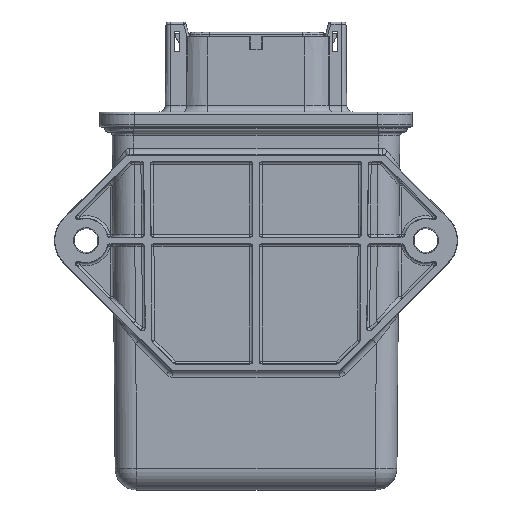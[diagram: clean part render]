
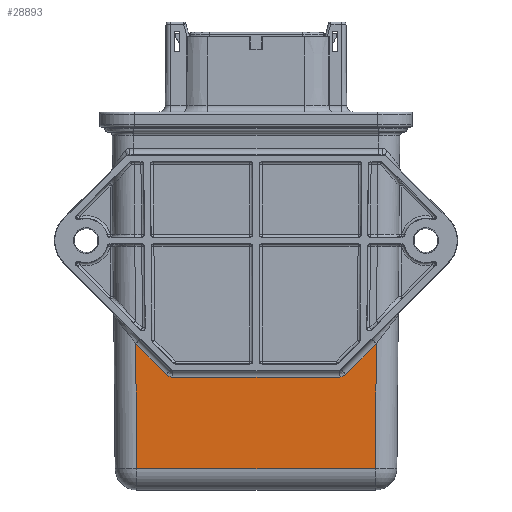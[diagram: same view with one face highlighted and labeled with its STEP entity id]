
A CAD part, front view. The second image highlights one B-rep face of the part: STEP entity #28893.
In plain terms, the highlighted planar face has unit normal (0, -1, -0.009).
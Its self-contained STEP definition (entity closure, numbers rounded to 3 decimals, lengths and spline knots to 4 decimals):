
#2664=ELLIPSE('',#30387,0.084,0.084);
#2670=ELLIPSE('',#30401,0.084,0.084);
#4856=FACE_OUTER_BOUND('',#6517,.T.);
#6517=EDGE_LOOP('',(#26458,#26459,#26460,#26461,#26462,#26463,#26464,#26465));
#9001=LINE('',#48041,#11770);
#9011=LINE('',#48267,#11780);
#9013=LINE('',#48274,#11782);
#9073=LINE('',#49410,#11842);
#9074=LINE('',#49415,#11843);
#9078=LINE('',#49455,#11847);
#11770=VECTOR('',#36328,0.3937);
#11780=VECTOR('',#36374,0.3937);
#11782=VECTOR('',#36382,0.3937);
#11842=VECTOR('',#36516,0.3937);
#11843=VECTOR('',#36525,0.3937);
#11847=VECTOR('',#36537,0.3937);
#14256=VERTEX_POINT('',#47922);
#14277=VERTEX_POINT('',#48038);
#14278=VERTEX_POINT('',#48040);
#14279=VERTEX_POINT('',#48064);
#14296=VERTEX_POINT('',#48260);
#14297=VERTEX_POINT('',#48262);
#14298=VERTEX_POINT('',#48266);
#14369=VERTEX_POINT('',#49409);
#17953=EDGE_CURVE('',#14277,#14278,#9001,.T.);
#17956=EDGE_CURVE('',#14278,#14279,#2664,.T.);
#17978=EDGE_CURVE('',#14296,#14297,#2670,.T.);
#17980=EDGE_CURVE('',#14297,#14298,#9011,.T.);
#17984=EDGE_CURVE('',#14298,#14256,#9013,.T.);
#18077=EDGE_CURVE('',#14256,#14369,#9073,.T.);
#18080=EDGE_CURVE('',#14369,#14277,#9074,.T.);
#18086=EDGE_CURVE('',#14279,#14296,#9078,.T.);
#26458=ORIENTED_EDGE('',*,*,#18086,.F.);
#26459=ORIENTED_EDGE('',*,*,#17956,.F.);
#26460=ORIENTED_EDGE('',*,*,#17953,.F.);
#26461=ORIENTED_EDGE('',*,*,#18080,.F.);
#26462=ORIENTED_EDGE('',*,*,#18077,.F.);
#26463=ORIENTED_EDGE('',*,*,#17984,.F.);
#26464=ORIENTED_EDGE('',*,*,#17980,.F.);
#26465=ORIENTED_EDGE('',*,*,#17978,.F.);
#27363=PLANE('',#30910);
#28893=ADVANCED_FACE('',(#4856),#27363,.T.);
#30387=AXIS2_PLACEMENT_3D('',#48065,#36332,#36333);
#30401=AXIS2_PLACEMENT_3D('',#48263,#36368,#36369);
#30910=AXIS2_PLACEMENT_3D('',#51180,#37663,#37664);
#36328=DIRECTION('',(0.707,0.006,-0.707));
#36332=DIRECTION('center_axis',(0.,-1.,
-0.009));
#36333=DIRECTION('ref_axis',(-0.203,0.009,-0.979));
#36368=DIRECTION('center_axis',(0.,-1.,
-0.009));
#36369=DIRECTION('ref_axis',(0.203,0.009,-0.979));
#36374=DIRECTION('',(0.707,-0.006,0.707));
#36382=DIRECTION('',(-0.009,0.009,-1.));
#36516=DIRECTION('',(-1.,0.,0.));
#36525=DIRECTION('',(-0.009,-0.009,1.));
#36537=DIRECTION('',(1.,0.,0.));
#37663=DIRECTION('center_axis',(0.,-1.,
-0.009));
#37664=DIRECTION('ref_axis',(-1.,0.,0.));
#47922=CARTESIAN_POINT('',(1.0903,-0.2511,-1.535));
#48038=CARTESIAN_POINT('',(-1.1002,-0.2611,-0.3932));
#48040=CARTESIAN_POINT('',(-0.8189,-0.2586,-0.6744));
#48041=CARTESIAN_POINT('',(-2.0201,-0.2691,0.5265));
#48064=CARTESIAN_POINT('',(-0.7595,-0.2584,-0.699));
#48065=CARTESIAN_POINT('Origin',(-0.7595,-0.2591,
-0.615));
#48260=CARTESIAN_POINT('',(0.7595,-0.2584,-0.699));
#48262=CARTESIAN_POINT('',(0.8189,-0.2586,-0.6744));
#48263=CARTESIAN_POINT('Origin',(0.7595,-0.2591,-0.615));
#48266=CARTESIAN_POINT('',(1.1002,-0.2611,-0.3932));
#48267=CARTESIAN_POINT('',(0.8689,-0.2591,-0.6244));
#48274=CARTESIAN_POINT('',(1.118,-0.279,1.6643));
#49409=CARTESIAN_POINT('',(-1.0903,-0.2511,-1.535));
#49410=CARTESIAN_POINT('',(-0.658,-0.2511,-1.535));
#49415=CARTESIAN_POINT('',(-1.118,-0.2791,1.6707));
#49455=CARTESIAN_POINT('',(-1.0427,-0.2584,-0.699));
#51180=CARTESIAN_POINT('Origin',(-1.316,-0.2791,1.674));
